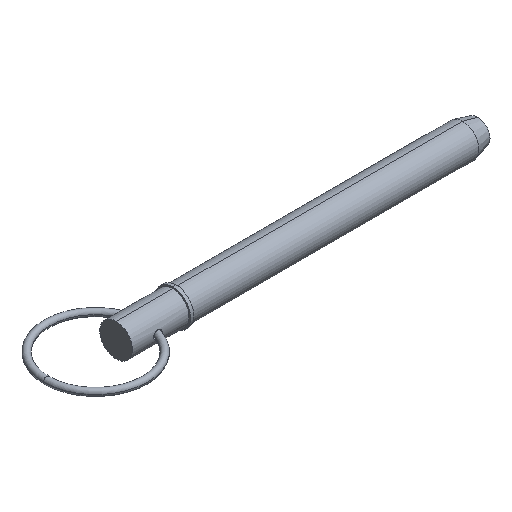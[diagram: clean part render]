
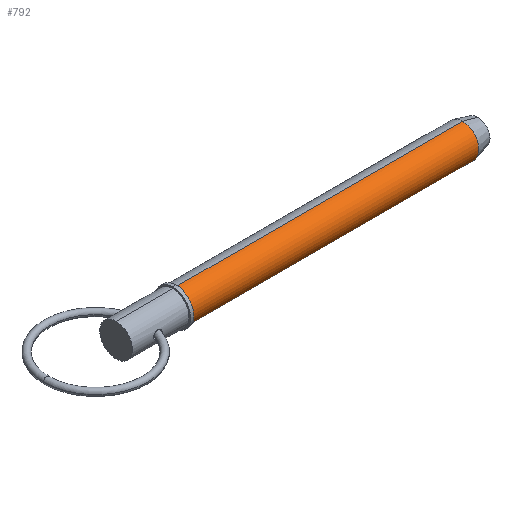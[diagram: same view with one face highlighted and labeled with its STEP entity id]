
A CAD part, isometric view. The second image highlights one B-rep face of the part: STEP entity #792.
In plain terms, the highlighted cylindrical face has radius 9.525 mm (diameter 19.05 mm), a partial arc.
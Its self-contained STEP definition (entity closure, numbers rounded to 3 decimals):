
#37 = DIRECTION ( 'NONE',  ( 0., 0., -1. ) ) ;
#56 = DIRECTION ( 'NONE',  ( 1., 0., 0. ) ) ;
#82 = CARTESIAN_POINT ( 'NONE',  ( 202.243, 0., 0. ) ) ;
#175 = CARTESIAN_POINT ( 'NONE',  ( 34.93, 0., 9.525 ) ) ;
#191 = CARTESIAN_POINT ( 'NONE',  ( 202.243, 0., -9.525 ) ) ;
#230 = CIRCLE ( 'NONE', #924, 9.525 ) ;
#255 = DIRECTION ( 'NONE',  ( 1., 0., 0. ) ) ;
#284 = FACE_OUTER_BOUND ( 'NONE', #901, .T. ) ;
#298 = VERTEX_POINT ( 'NONE', #175 ) ;
#315 = ORIENTED_EDGE ( 'NONE', *, *, #723, .T. ) ;
#353 = VECTOR ( 'NONE', #56, 1000. ) ;
#388 = ORIENTED_EDGE ( 'NONE', *, *, #490, .T. ) ;
#405 = DIRECTION ( 'NONE',  ( 1., 0., 0. ) ) ;
#415 = EDGE_CURVE ( 'NONE', #840, #1014, #230, .T. ) ;
#435 = VECTOR ( 'NONE', #702, 1000. ) ;
#440 = CYLINDRICAL_SURFACE ( 'NONE', #810, 9.525 ) ;
#466 = AXIS2_PLACEMENT_3D ( 'NONE', #507, #255, #909 ) ;
#490 = EDGE_CURVE ( 'NONE', #298, #910, #579, .T. ) ;
#507 = CARTESIAN_POINT ( 'NONE',  ( 34.93, 0., 0. ) ) ;
#579 = CIRCLE ( 'NONE', #466, 9.525 ) ;
#616 = CARTESIAN_POINT ( 'NONE',  ( 0., 0., 0. ) ) ;
#702 = DIRECTION ( 'NONE',  ( 1., 0., 0. ) ) ;
#713 = LINE ( 'NONE', #869, #435 ) ;
#723 = EDGE_CURVE ( 'NONE', #910, #1014, #1027, .T. ) ;
#764 = DIRECTION ( 'NONE',  ( 1., 0., 0. ) ) ;
#790 = CARTESIAN_POINT ( 'NONE',  ( 34.93, 0., -9.525 ) ) ;
#792 = ADVANCED_FACE ( 'NONE', ( #284 ), #440, .T. ) ;
#810 = AXIS2_PLACEMENT_3D ( 'NONE', #616, #764, #37 ) ;
#835 = EDGE_CURVE ( 'NONE', #298, #840, #713, .T. ) ;
#840 = VERTEX_POINT ( 'NONE', #967 ) ;
#850 = ORIENTED_EDGE ( 'NONE', *, *, #415, .F. ) ;
#869 = CARTESIAN_POINT ( 'NONE',  ( 0., 0., 9.525 ) ) ;
#901 = EDGE_LOOP ( 'NONE', ( #1012, #388, #315, #850 ) ) ;
#909 = DIRECTION ( 'NONE',  ( 0., 0., -1. ) ) ;
#910 = VERTEX_POINT ( 'NONE', #790 ) ;
#924 = AXIS2_PLACEMENT_3D ( 'NONE', #82, #405, #968 ) ;
#928 = CARTESIAN_POINT ( 'NONE',  ( 0., 0., -9.525 ) ) ;
#967 = CARTESIAN_POINT ( 'NONE',  ( 202.243, 0., 9.525 ) ) ;
#968 = DIRECTION ( 'NONE',  ( 0., 0., -1. ) ) ;
#1012 = ORIENTED_EDGE ( 'NONE', *, *, #835, .F. ) ;
#1014 = VERTEX_POINT ( 'NONE', #191 ) ;
#1027 = LINE ( 'NONE', #928, #353 ) ;
